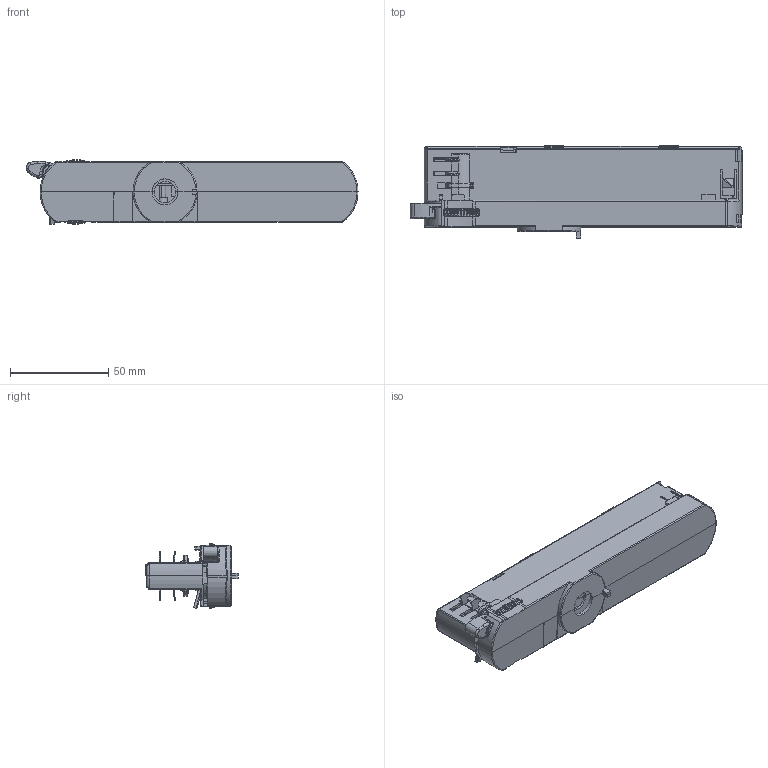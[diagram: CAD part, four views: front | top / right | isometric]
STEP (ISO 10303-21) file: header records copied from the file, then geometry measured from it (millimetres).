
FILE_DESCRIPTION (( 'STEP AP214' ), '1' );
FILE_NAME ('4 lines track driver for customer_0107.STEP', '2021-01-07T09:51:43', ( '' ), ( '' ), 'SwSTEP 2.0', 'SolidWorks 2020', '' );
FILE_SCHEMA (( 'AUTOMOTIVE_DESIGN' ));
Length unit declared in the file: millimetre
Products named in the file (1): 4 lines track driver for customer_0107
Bounding box: 169.19 x 47.07 x 33.07 mm (x, y, z)
Surface area: 91244.2 mm2 (no closed solid volume)
Topology: 0 solids, 70 shells, 4118 faces, 11769 edges, 7586 vertices
Faces by surface type: plane 2472, bspline 926, cylinder 613, cone 64, torus 29, sphere 14
Full cylindrical faces by diameter (mm): 0.8 x4
Entity records: 171036 total; most frequent: CARTESIAN_POINT 73092, ORIENTED_EDGE 23086, DIRECTION 15707, EDGE_CURVE 11758, VERTEX_POINT 7586, LINE 7247, VECTOR 7247, EDGE_LOOP 4238
